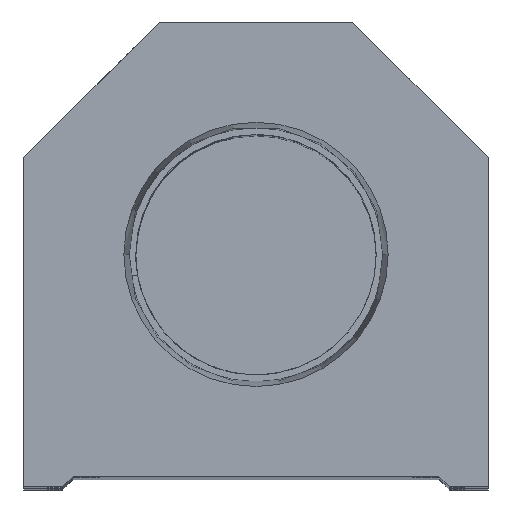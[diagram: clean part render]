
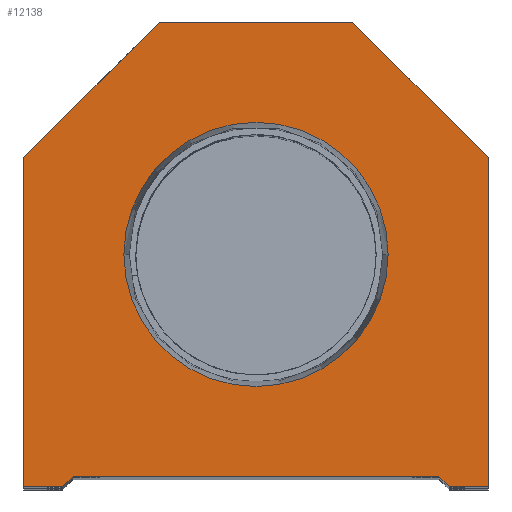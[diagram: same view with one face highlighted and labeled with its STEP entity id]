
A CAD part, top view. The second image highlights one B-rep face of the part: STEP entity #12138.
In plain terms, the highlighted planar face has unit normal (0, 0, 1).
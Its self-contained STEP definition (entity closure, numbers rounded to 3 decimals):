
#242 = PLANE ( 'NONE',  #2012 ) ;
#282 = LINE ( 'NONE', #15637, #11644 ) ;
#333 = DIRECTION ( 'NONE',  ( 1., 0., 0. ) ) ;
#767 = CARTESIAN_POINT ( 'NONE',  ( -22.25, 0., 0. ) ) ;
#866 = LINE ( 'NONE', #1235, #4973 ) ;
#1004 = CARTESIAN_POINT ( 'NONE',  ( 22.25, 0., 0. ) ) ;
#1077 = VERTEX_POINT ( 'NONE', #3782 ) ;
#1235 = CARTESIAN_POINT ( 'NONE',  ( -22.25, 31.5, 0. ) ) ;
#1290 = DIRECTION ( 'NONE',  ( 0., 0., 1. ) ) ;
#1344 = VERTEX_POINT ( 'NONE', #767 ) ;
#1947 = ORIENTED_EDGE ( 'NONE', *, *, #15166, .T. ) ;
#1970 = ORIENTED_EDGE ( 'NONE', *, *, #6981, .T. ) ;
#2012 = AXIS2_PLACEMENT_3D ( 'NONE', #15591, #6359, #333 ) ;
#2347 = CARTESIAN_POINT ( 'NONE',  ( 0., 22.25, 0. ) ) ;
#2407 = AXIS2_PLACEMENT_3D ( 'NONE', #2998, #1290, #6119 ) ;
#2568 = ORIENTED_EDGE ( 'NONE', *, *, #10297, .T. ) ;
#2998 = CARTESIAN_POINT ( 'NONE',  ( 0., 22.25, 0. ) ) ;
#3067 = CARTESIAN_POINT ( 'NONE',  ( -17.5, 1., 0. ) ) ;
#3141 = LINE ( 'NONE', #7544, #3975 ) ;
#3438 = FACE_BOUND ( 'NONE', #3749, .T. ) ;
#3461 = VERTEX_POINT ( 'NONE', #3067 ) ;
#3663 = CARTESIAN_POINT ( 'NONE',  ( 12.647, 22.25, 0. ) ) ;
#3667 = EDGE_CURVE ( 'NONE', #11637, #10798, #19023, .T. ) ;
#3670 = EDGE_CURVE ( 'NONE', #10798, #7976, #5659, .T. ) ;
#3749 = EDGE_LOOP ( 'NONE', ( #13272, #7250 ) ) ;
#3782 = CARTESIAN_POINT ( 'NONE',  ( -12.647, 22.25, 0. ) ) ;
#3848 = DIRECTION ( 'NONE',  ( 0., 0., 1. ) ) ;
#3855 = ORIENTED_EDGE ( 'NONE', *, *, #3667, .T. ) ;
#3926 = CARTESIAN_POINT ( 'NONE',  ( -17.5, 1., 0. ) ) ;
#3975 = VECTOR ( 'NONE', #4657, 1000. ) ;
#4200 = LINE ( 'NONE', #15281, #8139 ) ;
#4396 = ORIENTED_EDGE ( 'NONE', *, *, #5335, .T. ) ;
#4556 = CIRCLE ( 'NONE', #16991, 12.647 ) ;
#4657 = DIRECTION ( 'NONE',  ( -1., 0., 0. ) ) ;
#4836 = CARTESIAN_POINT ( 'NONE',  ( 22.25, 31.5, 0. ) ) ;
#4843 = VERTEX_POINT ( 'NONE', #14305 ) ;
#4973 = VECTOR ( 'NONE', #8473, 1000. ) ;
#5191 = EDGE_CURVE ( 'NONE', #4843, #10277, #866, .T. ) ;
#5335 = EDGE_CURVE ( 'NONE', #5790, #4843, #3141, .T. ) ;
#5546 = CARTESIAN_POINT ( 'NONE',  ( 17.5, 0., 0. ) ) ;
#5659 = LINE ( 'NONE', #5546, #9747 ) ;
#5690 = EDGE_CURVE ( 'NONE', #1344, #16946, #4200, .T. ) ;
#5790 = VERTEX_POINT ( 'NONE', #11700 ) ;
#5961 = CARTESIAN_POINT ( 'NONE',  ( 22.25, 31.5, 0. ) ) ;
#6119 = DIRECTION ( 'NONE',  ( 1., 0., 0. ) ) ;
#6215 = VECTOR ( 'NONE', #9376, 1000. ) ;
#6359 = DIRECTION ( 'NONE',  ( 0., 0., 1. ) ) ;
#6503 = VECTOR ( 'NONE', #15927, 1000. ) ;
#6981 = EDGE_CURVE ( 'NONE', #9843, #5790, #19610, .T. ) ;
#7250 = ORIENTED_EDGE ( 'NONE', *, *, #13697, .F. ) ;
#7432 = ORIENTED_EDGE ( 'NONE', *, *, #5191, .T. ) ;
#7544 = CARTESIAN_POINT ( 'NONE',  ( 9.25, 44.5, 0. ) ) ;
#7675 = CARTESIAN_POINT ( 'NONE',  ( 18.5, 0., 0. ) ) ;
#7976 = VERTEX_POINT ( 'NONE', #1004 ) ;
#8059 = ORIENTED_EDGE ( 'NONE', *, *, #5690, .T. ) ;
#8139 = VECTOR ( 'NONE', #16780, 1000. ) ;
#8163 = VECTOR ( 'NONE', #19321, 1000. ) ;
#8473 = DIRECTION ( 'NONE',  ( -0.707, -0.707, 0. ) ) ;
#9237 = ORIENTED_EDGE ( 'NONE', *, *, #3670, .T. ) ;
#9345 = CARTESIAN_POINT ( 'NONE',  ( -22.25, 31.5, 0. ) ) ;
#9376 = DIRECTION ( 'NONE',  ( 0., 1., 0. ) ) ;
#9747 = VECTOR ( 'NONE', #11750, 1000. ) ;
#9841 = CARTESIAN_POINT ( 'NONE',  ( 9.25, 9.25, 0. ) ) ;
#9843 = VERTEX_POINT ( 'NONE', #4836 ) ;
#10030 = DIRECTION ( 'NONE',  ( 1., 0., 0. ) ) ;
#10277 = VERTEX_POINT ( 'NONE', #9345 ) ;
#10297 = EDGE_CURVE ( 'NONE', #16946, #3461, #282, .T. ) ;
#10556 = EDGE_LOOP ( 'NONE', ( #8059, #2568, #1947, #3855, #9237, #15337, #1970, #4396, #7432, #17089 ) ) ;
#10798 = VERTEX_POINT ( 'NONE', #7675 ) ;
#11637 = VERTEX_POINT ( 'NONE', #16629 ) ;
#11644 = VECTOR ( 'NONE', #13873, 1000. ) ;
#11700 = CARTESIAN_POINT ( 'NONE',  ( 9.25, 44.5, 0. ) ) ;
#11732 = CARTESIAN_POINT ( 'NONE',  ( 22.25, 0., 0. ) ) ;
#11750 = DIRECTION ( 'NONE',  ( 1., 0., 0. ) ) ;
#12138 = ADVANCED_FACE ( 'NONE', ( #3438, #13933 ), #242, .T. ) ;
#12858 = VERTEX_POINT ( 'NONE', #3663 ) ;
#13174 = CARTESIAN_POINT ( 'NONE',  ( -22.25, 0., 0. ) ) ;
#13272 = ORIENTED_EDGE ( 'NONE', *, *, #18066, .F. ) ;
#13372 = LINE ( 'NONE', #13174, #6503 ) ;
#13431 = EDGE_CURVE ( 'NONE', #7976, #9843, #19304, .T. ) ;
#13680 = EDGE_CURVE ( 'NONE', #10277, #1344, #13372, .T. ) ;
#13697 = EDGE_CURVE ( 'NONE', #1077, #12858, #4556, .T. ) ;
#13873 = DIRECTION ( 'NONE',  ( 0.707, 0.707, 0. ) ) ;
#13933 = FACE_OUTER_BOUND ( 'NONE', #10556, .T. ) ;
#14305 = CARTESIAN_POINT ( 'NONE',  ( -9.25, 44.5, 0. ) ) ;
#14558 = DIRECTION ( 'NONE',  ( 1., 0., 0. ) ) ;
#14722 = DIRECTION ( 'NONE',  ( -0.707, 0.707, 0. ) ) ;
#15166 = EDGE_CURVE ( 'NONE', #3461, #11637, #19201, .T. ) ;
#15281 = CARTESIAN_POINT ( 'NONE',  ( -17.5, 0., 0. ) ) ;
#15337 = ORIENTED_EDGE ( 'NONE', *, *, #13431, .T. ) ;
#15482 = VECTOR ( 'NONE', #14722, 1000. ) ;
#15591 = CARTESIAN_POINT ( 'NONE',  ( 0., 0., 0. ) ) ;
#15637 = CARTESIAN_POINT ( 'NONE',  ( -9.25, 9.25, 0. ) ) ;
#15927 = DIRECTION ( 'NONE',  ( 0., -1., 0. ) ) ;
#16629 = CARTESIAN_POINT ( 'NONE',  ( 17.5, 1., 0. ) ) ;
#16780 = DIRECTION ( 'NONE',  ( 1., 0., 0. ) ) ;
#16946 = VERTEX_POINT ( 'NONE', #18384 ) ;
#16991 = AXIS2_PLACEMENT_3D ( 'NONE', #2347, #3848, #14558 ) ;
#17089 = ORIENTED_EDGE ( 'NONE', *, *, #13680, .T. ) ;
#18066 = EDGE_CURVE ( 'NONE', #12858, #1077, #19629, .T. ) ;
#18384 = CARTESIAN_POINT ( 'NONE',  ( -18.5, 0., 0. ) ) ;
#19023 = LINE ( 'NONE', #9841, #8163 ) ;
#19168 = VECTOR ( 'NONE', #10030, 1000. ) ;
#19201 = LINE ( 'NONE', #3926, #19168 ) ;
#19304 = LINE ( 'NONE', #11732, #6215 ) ;
#19321 = DIRECTION ( 'NONE',  ( 0.707, -0.707, 0. ) ) ;
#19610 = LINE ( 'NONE', #5961, #15482 ) ;
#19629 = CIRCLE ( 'NONE', #2407, 12.647 ) ;
